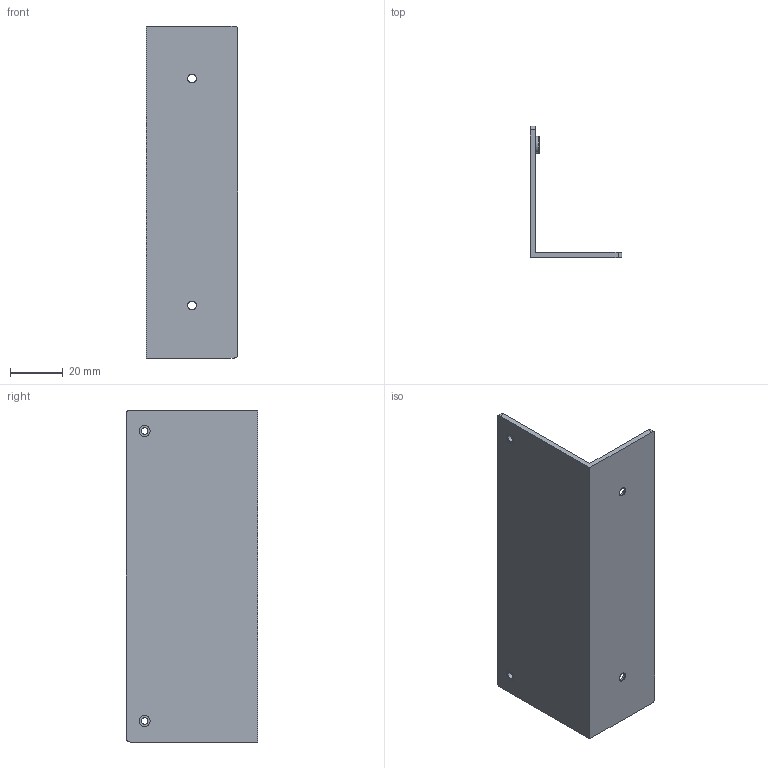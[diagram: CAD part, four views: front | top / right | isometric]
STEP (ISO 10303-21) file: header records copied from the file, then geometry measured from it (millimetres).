
FILE_DESCRIPTION(/* description */ ('BRACKET FOR BLIND PLATE 2U','CAx-IF Rec.Pracs.---Representation and Presentation of Product Manufacturing Information (PMI)---4.0---2014-10-13'),/* implementation_level */ '2;1');
FILE_NAME(/* name */ 'E:\CAMTEC_2020_Pack and Go\Subrack_2U\2051064002.stp',/* time_stamp */ '2020-09-21T15:29:10+02:00',/* author */ ('rryba'),/* organization */ (''),/* preprocessor_version */ 'ST-DEVELOPER v18.1',/* originating_system */ 'Autodesk Inventor 2021',/* authorisation */ '');
FILE_SCHEMA (('AP242_MANAGED_MODEL_BASED_3D_ENGINEERING_MIM_LF { 1 0 10303 442 1 1 4 }'));
Length unit declared in the file: millimetre
Products named in the file (1): 2051064002
Bounding box: 35 x 50 x 126.4 mm (x, y, z)
Volume: 20963.1 mm3; surface area: 22079.5 mm2
Topology: 3 solids, 3 shells, 34 faces, 96 edges, 89 vertices
Faces by surface type: cylinder 16, plane 14, cone 2, torus 2
Full cylindrical faces by diameter (mm): 2.459 x2, 3.4 x2, 4.2 x4, 5.9 x2, 6.3 x2
Entity records: 1159 total; most frequent: CARTESIAN_POINT 198, DIRECTION 188, ORIENTED_EDGE 148, AXIS2_PLACEMENT_3D 76, EDGE_CURVE 74, EDGE_LOOP 48, VERTEX_POINT 48, STYLED_ITEM 45
